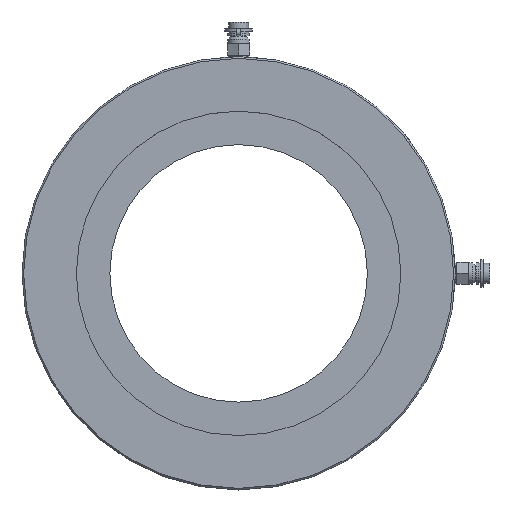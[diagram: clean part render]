
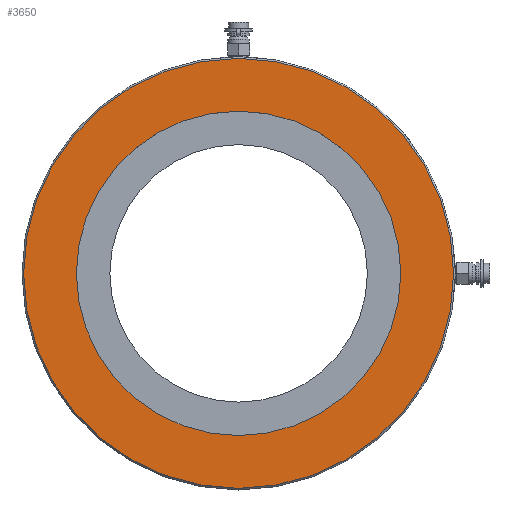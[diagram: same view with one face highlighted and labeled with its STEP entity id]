
A CAD part, top view. The second image highlights one B-rep face of the part: STEP entity #3650.
In plain terms, the highlighted planar face has unit normal (0, 0, 1).
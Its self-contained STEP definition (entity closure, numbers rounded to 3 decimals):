
#3616=CARTESIAN_POINT('',(136.5,0.,10.0));
#3617=VERTEX_POINT('',#3616);
#3618=CARTESIAN_POINT('',(0.0,0.0,10.0));
#3619=DIRECTION('',(0.0,0.0,-1.0));
#3620=DIRECTION('',(-1.0,0.0,0.0));
#3621=AXIS2_PLACEMENT_3D('',#3618,#3619,#3620);
#3622=CIRCLE('',#3621,136.5);
#3623=EDGE_CURVE('',#3617,#3617,#3622,.T.);
#3631=CARTESIAN_POINT('',(0.0,0.0,10.0));
#3632=DIRECTION('',(0.0,0.0,-1.0));
#3633=DIRECTION('',(-1.0,0.0,0.0));
#3634=AXIS2_PLACEMENT_3D('',#3631,#3632,#3633);
#3635=PLANE('',#3634);
#3636=ORIENTED_EDGE('',*,*,#3623,.F.);
#3637=EDGE_LOOP('',(#3636));
#3638=FACE_OUTER_BOUND('',#3637,.T.);
#3639=CARTESIAN_POINT('',(103.0,0.,10.0));
#3640=VERTEX_POINT('',#3639);
#3641=CARTESIAN_POINT('',(0.0,0.0,10.0));
#3642=DIRECTION('',(0.0,0.0,-1.0));
#3643=DIRECTION('',(-1.0,0.0,0.0));
#3644=AXIS2_PLACEMENT_3D('',#3641,#3642,#3643);
#3645=CIRCLE('',#3644,103.0);
#3646=EDGE_CURVE('',#3640,#3640,#3645,.T.);
#3647=ORIENTED_EDGE('',*,*,#3646,.T.);
#3648=EDGE_LOOP('',(#3647));
#3649=FACE_BOUND('',#3648,.T.);
#3650=ADVANCED_FACE('',(#3638,#3649),#3635,.F.);
